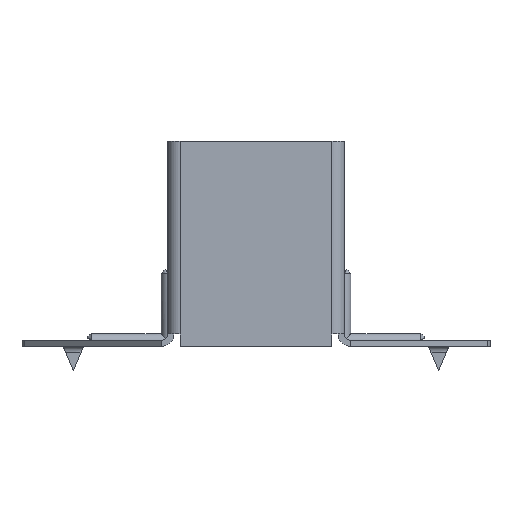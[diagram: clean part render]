
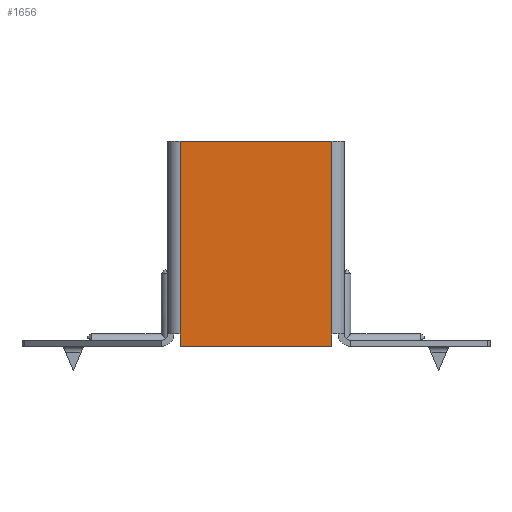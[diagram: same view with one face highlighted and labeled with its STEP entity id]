
A CAD part, front view. The second image highlights one B-rep face of the part: STEP entity #1656.
In plain terms, the highlighted planar face has unit normal (0, -1, 0).
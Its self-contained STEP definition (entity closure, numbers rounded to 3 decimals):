
#2 = DIRECTION ( 'NONE',  ( 0., 0., -1. ) ) ;
#95 = DIRECTION ( 'NONE',  ( 0., 1., 0. ) ) ;
#176 = EDGE_CURVE ( 'NONE', #3964, #3611, #1721, .T. ) ;
#193 = ORIENTED_EDGE ( 'NONE', *, *, #4385, .T. ) ;
#204 = DIRECTION ( 'NONE',  ( 0., 0., 1. ) ) ;
#268 = CARTESIAN_POINT ( 'NONE',  ( 18.5, 0., -70. ) ) ;
#729 = CARTESIAN_POINT ( 'NONE',  ( -18.5, 0., -67. ) ) ;
#1040 = LINE ( 'NONE', #9642, #1400 ) ;
#1387 = ORIENTED_EDGE ( 'NONE', *, *, #176, .T. ) ;
#1400 = VECTOR ( 'NONE', #1498, 1000. ) ;
#1498 = DIRECTION ( 'NONE',  ( -1., 0., 0. ) ) ;
#1649 = CARTESIAN_POINT ( 'NONE',  ( 18.5, 0., -20. ) ) ;
#1656 = ADVANCED_FACE ( 'NONE', ( #6883 ), #2274, .F. ) ;
#1659 = EDGE_CURVE ( 'NONE', #7355, #1683, #8620, .T. ) ;
#1672 = LINE ( 'NONE', #9020, #6903 ) ;
#1683 = VERTEX_POINT ( 'NONE', #729 ) ;
#1721 = LINE ( 'NONE', #4657, #2776 ) ;
#1804 = ORIENTED_EDGE ( 'NONE', *, *, #7935, .F. ) ;
#2215 = CARTESIAN_POINT ( 'NONE',  ( 0., 0., 0. ) ) ;
#2223 = VECTOR ( 'NONE', #8494, 1000. ) ;
#2274 = PLANE ( 'NONE',  #6404 ) ;
#2550 = LINE ( 'NONE', #3004, #6371 ) ;
#2650 = ORIENTED_EDGE ( 'NONE', *, *, #7582, .T. ) ;
#2764 = VERTEX_POINT ( 'NONE', #3742 ) ;
#2776 = VECTOR ( 'NONE', #204, 1000. ) ;
#2908 = DIRECTION ( 'NONE',  ( -1., 0., 0. ) ) ;
#3004 = CARTESIAN_POINT ( 'NONE',  ( -20., 0., -70. ) ) ;
#3611 = VERTEX_POINT ( 'NONE', #1649 ) ;
#3742 = CARTESIAN_POINT ( 'NONE',  ( -18.5, 0., -70. ) ) ;
#3908 = ORIENTED_EDGE ( 'NONE', *, *, #5147, .T. ) ;
#3952 = CARTESIAN_POINT ( 'NONE',  ( 18.5, 0., -67. ) ) ;
#3964 = VERTEX_POINT ( 'NONE', #3952 ) ;
#4385 = EDGE_CURVE ( 'NONE', #3611, #7355, #1040, .T. ) ;
#4657 = CARTESIAN_POINT ( 'NONE',  ( 18.5, 0., -70. ) ) ;
#5147 = EDGE_CURVE ( 'NONE', #1683, #2764, #1672, .T. ) ;
#6260 = ORIENTED_EDGE ( 'NONE', *, *, #1659, .T. ) ;
#6371 = VECTOR ( 'NONE', #2908, 1000. ) ;
#6404 = AXIS2_PLACEMENT_3D ( 'NONE', #2215, #95, #6733 ) ;
#6645 = CARTESIAN_POINT ( 'NONE',  ( 18.5, 0., -70. ) ) ;
#6733 = DIRECTION ( 'NONE',  ( 0., 0., 1. ) ) ;
#6883 = FACE_OUTER_BOUND ( 'NONE', #8449, .T. ) ;
#6903 = VECTOR ( 'NONE', #9638, 1000. ) ;
#7355 = VERTEX_POINT ( 'NONE', #9512 ) ;
#7582 = EDGE_CURVE ( 'NONE', #9163, #3964, #8731, .T. ) ;
#7935 = EDGE_CURVE ( 'NONE', #9163, #2764, #2550, .T. ) ;
#8449 = EDGE_LOOP ( 'NONE', ( #193, #6260, #3908, #1804, #2650, #1387 ) ) ;
#8494 = DIRECTION ( 'NONE',  ( 0., 0., 1. ) ) ;
#8620 = LINE ( 'NONE', #8876, #8984 ) ;
#8731 = LINE ( 'NONE', #268, #2223 ) ;
#8876 = CARTESIAN_POINT ( 'NONE',  ( -18.5, 0., 0. ) ) ;
#8984 = VECTOR ( 'NONE', #2, 1000. ) ;
#9020 = CARTESIAN_POINT ( 'NONE',  ( -18.5, 0., 0. ) ) ;
#9163 = VERTEX_POINT ( 'NONE', #6645 ) ;
#9512 = CARTESIAN_POINT ( 'NONE',  ( -18.5, 0., -20. ) ) ;
#9638 = DIRECTION ( 'NONE',  ( 0., 0., -1. ) ) ;
#9642 = CARTESIAN_POINT ( 'NONE',  ( 0., 0., -20. ) ) ;
